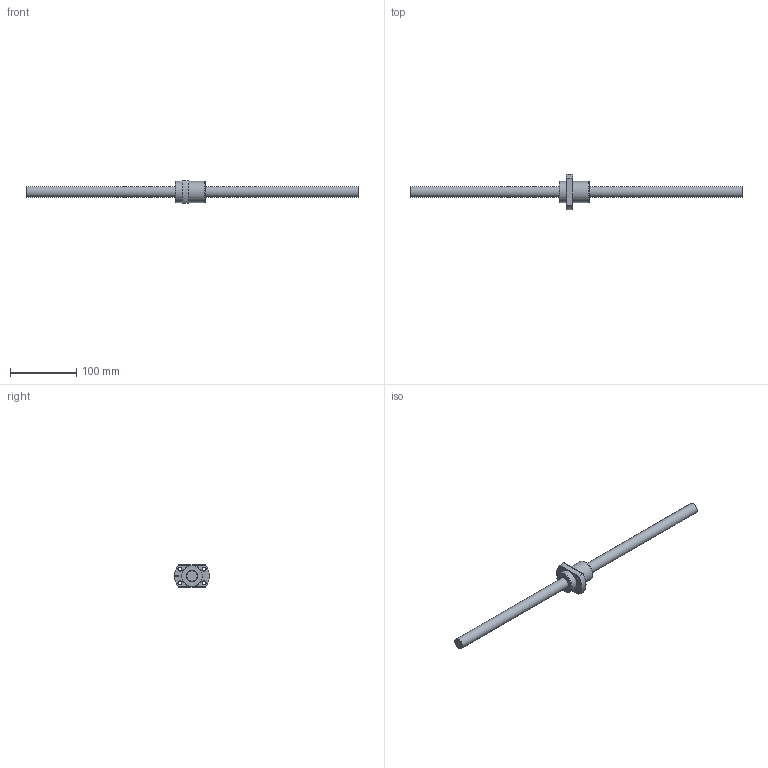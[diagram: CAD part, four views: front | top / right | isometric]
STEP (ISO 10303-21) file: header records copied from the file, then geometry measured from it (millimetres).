
FILE_DESCRIPTION (( 'STEP AP203' ), '1' );
FILE_NAME ('SFYA01616-3.6.step', '2024-05-22T07:51:23', ( '' ), ( '' ), 'SwSTEP 2.0', 'SolidWorks 2022', '' );
FILE_SCHEMA (( 'CONFIG_CONTROL_DESIGN' ));
Length unit declared in the file: millimetre
Products named in the file (1): SFYA01616-3.6
Bounding box: 500 x 53 x 34 mm (x, y, z)
Volume: 133017.3 mm3; surface area: 36471.2 mm2
Topology: 2 solids, 2 shells, 51 faces, 124 edges, 79 vertices
Faces by surface type: cylinder 18, plane 13, cone 9, torus 6, bspline 5
Full cylindrical faces by diameter (mm): 3 x1, 4.5 x4, 5 x6, 16 x1, 17.9 x1, 32 x2
Entity records: 3017 total; most frequent: CARTESIAN_POINT 2064, DIRECTION 170, ORIENTED_EDGE 156, EDGE_LOOP 80, EDGE_CURVE 78, AXIS2_PLACEMENT_3D 77, VERTEX_POINT 62, FACE_OUTER_BOUND 57
